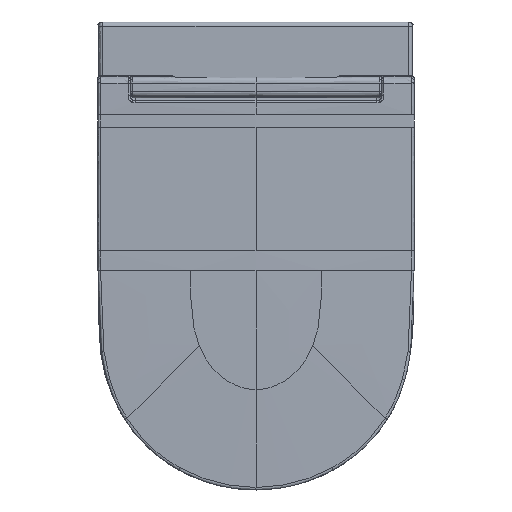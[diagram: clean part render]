
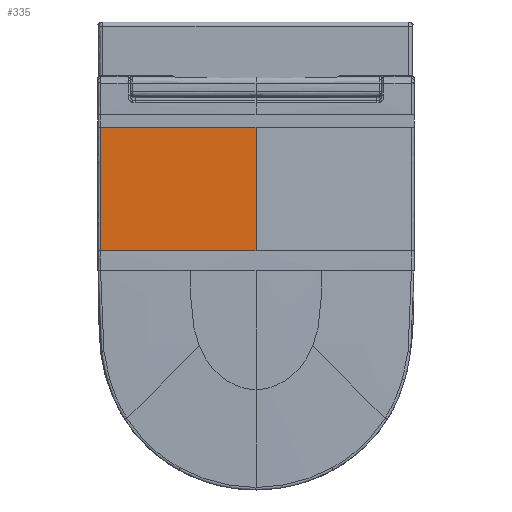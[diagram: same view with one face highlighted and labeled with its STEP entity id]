
A CAD part, top view. The second image highlights one B-rep face of the part: STEP entity #335.
In plain terms, the highlighted free-form (B-spline) face has degree [2, 2] with [3, 5] control points.
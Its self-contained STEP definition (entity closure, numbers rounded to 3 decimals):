
#335=ADVANCED_FACE('',(#657),#4905,.T.);
#657=FACE_OUTER_BOUND('',#988,.T.);
#988=EDGE_LOOP('',(#2470,#2471,#2472,#2473));
#2470=ORIENTED_EDGE('',*,*,#3346,.T.);
#2471=ORIENTED_EDGE('',*,*,#3332,.T.);
#2472=ORIENTED_EDGE('',*,*,#3308,.T.);
#2473=ORIENTED_EDGE('',*,*,#3359,.F.);
#3308=EDGE_CURVE('',#4657,#4667,#3967,.T.);
#3332=EDGE_CURVE('',#4662,#4657,#3985,.T.);
#3346=EDGE_CURVE('',#4671,#4662,#3997,.T.);
#3359=EDGE_CURVE('',#4671,#4667,#4010,.T.);
#3967=B_SPLINE_CURVE_WITH_KNOTS('',1,(#35788,#35789),.UNSPECIFIED.,.F.,
 .F.,(2,2),(0.,143.501),.UNSPECIFIED.);
#3985=B_SPLINE_CURVE_WITH_KNOTS('',2,(#35956,#35957,#35958,#35959,#35960),
 .UNSPECIFIED.,.F.,.F.,(3,2,3),(-362.008,-257.184,-181.004),
 .UNSPECIFIED.);
#3997=B_SPLINE_CURVE_WITH_KNOTS('',2,(#36001,#36002,#36003,#36004,#36005),
 .UNSPECIFIED.,.F.,.F.,(3,2,3),(36.752,180.254,180.254),
 .UNSPECIFIED.);
#4010=B_SPLINE_CURVE_WITH_KNOTS('',3,(#36236,#36237,#36238,#36239,#36240),
 .UNSPECIFIED.,.F.,.F.,(4,1,4),(-751.196,-750.463,-570.195),
 .UNSPECIFIED.);
#4657=VERTEX_POINT('',#33500);
#4662=VERTEX_POINT('',#33505);
#4667=VERTEX_POINT('',#33510);
#4671=VERTEX_POINT('',#33514);
#4905=B_SPLINE_SURFACE_WITH_KNOTS('',2,2,((#32486,#32487,#32488,#32489,
#32490),(#32491,#32492,#32493,#32494,#32495),(#32496,#32497,#32498,#32499,
#32500)),.UNSPECIFIED.,.F.,.F.,.F.,(3,3),(3,2,3),(0.,183.746),(0.,
1.983,200.25),.UNSPECIFIED.);
#32486=CARTESIAN_POINT('',(596.641,-302.31,-296.643));
#32487=CARTESIAN_POINT('',(596.641,-301.318,-296.643));
#32488=CARTESIAN_POINT('',(596.641,-300.327,-296.643));
#32489=CARTESIAN_POINT('',(596.641,-201.193,-296.643));
#32490=CARTESIAN_POINT('',(596.641,-102.06,-296.643));
#32491=CARTESIAN_POINT('',(688.503,-302.31,-294.644));
#32492=CARTESIAN_POINT('',(688.503,-301.318,-294.644));
#32493=CARTESIAN_POINT('',(688.503,-300.327,-294.644));
#32494=CARTESIAN_POINT('',(688.503,-201.193,-294.644));
#32495=CARTESIAN_POINT('',(688.503,-102.06,-294.644));
#32496=CARTESIAN_POINT('',(780.366,-302.31,-294.644));
#32497=CARTESIAN_POINT('',(780.366,-301.318,-294.644));
#32498=CARTESIAN_POINT('',(780.366,-300.327,-294.644));
#32499=CARTESIAN_POINT('',(780.366,-201.193,-294.644));
#32500=CARTESIAN_POINT('',(780.366,-102.06,-294.644));
#33500=CARTESIAN_POINT('',(780.366,-300.327,-294.644));
#33505=CARTESIAN_POINT('',(599.377,-300.327,-296.584));
#33510=CARTESIAN_POINT('',(780.366,-156.826,-294.644));
#33514=CARTESIAN_POINT('',(599.377,-156.826,-296.584));
#35788=CARTESIAN_POINT('',(780.366,-300.327,-294.644));
#35789=CARTESIAN_POINT('',(780.366,-156.826,-294.644));
#35956=CARTESIAN_POINT('',(599.377,-300.327,-296.584));
#35957=CARTESIAN_POINT('',(651.782,-300.327,-295.46));
#35958=CARTESIAN_POINT('',(704.187,-300.327,-294.988));
#35959=CARTESIAN_POINT('',(742.276,-300.327,-294.644));
#35960=CARTESIAN_POINT('',(780.366,-300.327,-294.644));
#36001=CARTESIAN_POINT('',(599.377,-156.826,-296.584));
#36002=CARTESIAN_POINT('',(599.377,-228.576,-296.584));
#36003=CARTESIAN_POINT('',(599.377,-300.327,-296.584));
#36004=CARTESIAN_POINT('',(599.377,-300.327,-296.584));
#36005=CARTESIAN_POINT('',(599.377,-300.327,-296.584));
#36236=CARTESIAN_POINT('',(599.377,-156.826,-296.584));
#36237=CARTESIAN_POINT('',(599.622,-156.826,-296.578));
#36238=CARTESIAN_POINT('',(659.943,-156.826,-295.288));
#36239=CARTESIAN_POINT('',(720.276,-156.826,-294.644));
#36240=CARTESIAN_POINT('',(780.366,-156.826,-294.644));
